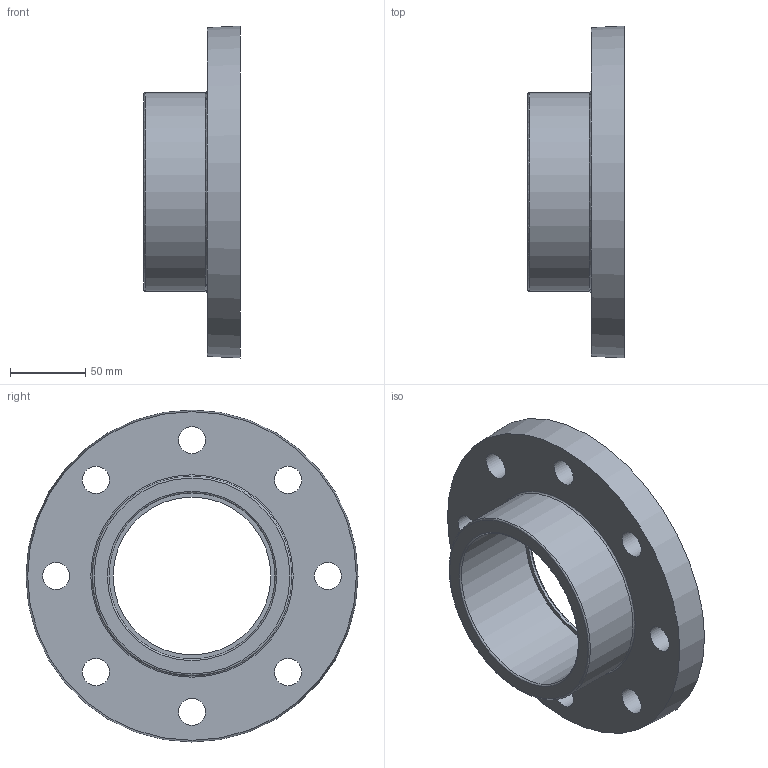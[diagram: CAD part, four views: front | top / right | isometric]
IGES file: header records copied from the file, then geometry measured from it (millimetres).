
Global section: file name: 059100110.ipt; native system: Autodesk Inventor 2015; preprocessor: unknown; author: KIM; date: 20171207.170005; units: millimetre
Bounding box: 64 x 220 x 220 mm (x, y, z)
Volume: 751801.6 mm3; surface area: 118868 mm2
Topology: 1 solids, 1 shells, 32 faces, 74 edges, 52 vertices
Faces by surface type: revolution 17, plane 10, cylinder 4, cone 1
Full cylindrical faces by diameter (mm): 108.9 x1, 113.3 x1, 117.7 x1, 132 x1
